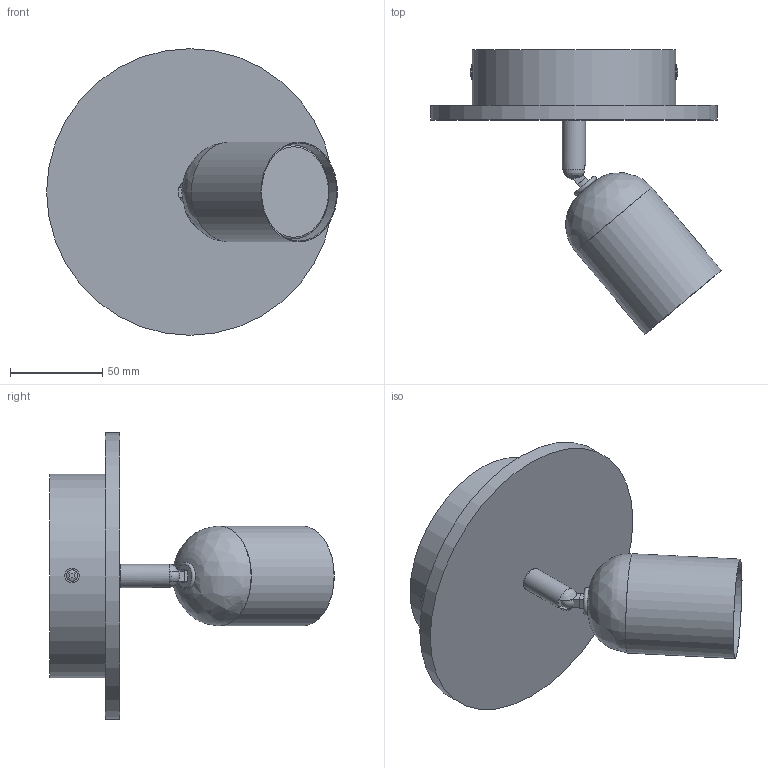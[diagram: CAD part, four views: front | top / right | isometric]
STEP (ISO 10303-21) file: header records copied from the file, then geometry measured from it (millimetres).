
FILE_DESCRIPTION(/* description */ (''),/* implementation_level */ '2;1');
FILE_NAME(/* name */ 'C:/Users/kubaw/OneDrive/Pulpit/3D/JAKUB_WIECZORKOWSKI_MAJ_PACZKA/OK/3290_TOP WOOD.step',/* time_stamp */ '2021-06-19T10:40:50+02:00',/* author */ (''),/* organization */ (''),/* preprocessor_version */ 'ST-DEVELOPER v18.1',/* originating_system */ 'Autodesk Translation Framework v10.9.0.1377',/* authorisation */ '');
FILE_SCHEMA (('AUTOMOTIVE_DESIGN { 1 0 10303 214 3 1 1 }'));
Length unit declared in the file: millimetre
Products named in the file (4): 3290_TOP WOOD; KLOSZ_TOP WOOD; ŚRUBA_TOP WOOD; ŚRUBA_TOP WOOD v1(Mirror)
Assembly tree (3 placements, depth 2):
  3290_TOP WOOD
    KLOSZ_TOP WOOD
    ŚRUBA_TOP WOOD
    ŚRUBA_TOP WOOD v1(Mirror)
Bounding box: 157.23 x 153.9 x 155 mm (x, y, z)
Volume: 476363.7 mm3; surface area: 107752 mm2
Topology: 13 solids, 13 shells, 89 faces, 191 edges, 128 vertices
Faces by surface type: plane 60, cylinder 18, bspline 7, torus 2, sphere 1, cone 1
Full cylindrical faces by diameter (mm): 8 x2, 12.6 x1, 12.87 x1, 53.1 x1, 54 x1, 110 x1, 155 x1
Entity records: 2833 total; most frequent: CARTESIAN_POINT 771, DIRECTION 403, ORIENTED_EDGE 378, EDGE_CURVE 189, AXIS2_PLACEMENT_3D 153, VERTEX_POINT 128, LINE 97, VECTOR 97
